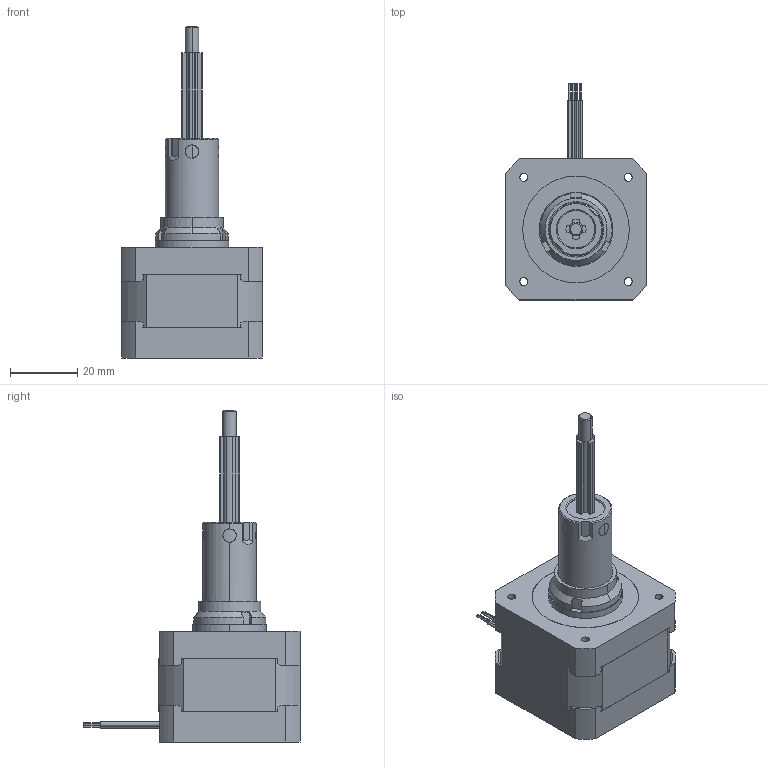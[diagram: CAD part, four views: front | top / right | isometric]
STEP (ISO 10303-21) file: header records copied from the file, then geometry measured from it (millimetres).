
FILE_DESCRIPTION (( 'STEP AP203' ), '1' );
FILE_NAME ('42嘐隅粣.STEP', '2014-09-12T05:16:19', ( 'user' ), ( 'pxctfys' ), 'SwSTEP 2.0', 'SolidWorks 2012', '' );
FILE_SCHEMA (( 'CONFIG_CONTROL_DESIGN' ));
Length unit declared in the file: millimetre
Products named in the file (1): 42嘐隅粣
Bounding box: 42.16 x 64.57 x 98.9 mm (x, y, z)
Surface area: 16648.1 mm2 (no closed solid volume)
Topology: 0 solids, 21 shells, 221 faces, 1422 edges, 1224 vertices
Faces by surface type: cylinder 100, plane 88, cone 27, torus 4, bspline 2
Entity records: 15096 total; most frequent: CARTESIAN_POINT 3895, DIRECTION 2557, ORIENTED_EDGE 1902, EDGE_CURVE 1422, VERTEX_POINT 1224, AXIS2_PLACEMENT_3D 988, CIRCLE 768, LINE 581
